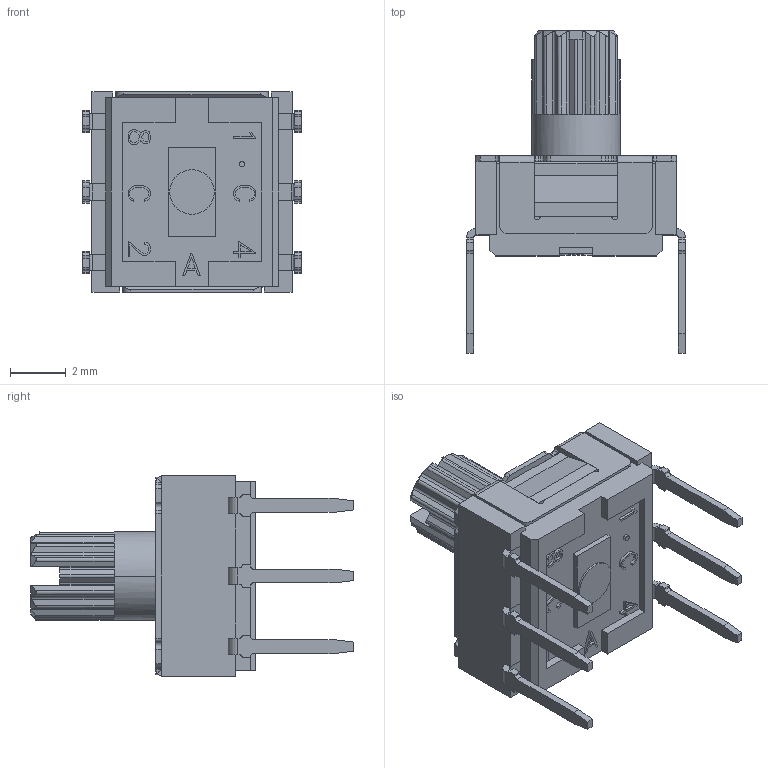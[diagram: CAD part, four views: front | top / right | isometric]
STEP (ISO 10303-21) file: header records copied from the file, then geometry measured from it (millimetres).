
FILE_DESCRIPTION (( 'STEP AP203' ), '1' );
FILE_NAME ('RSH-3FRH.STEP', '2019-07-05T06:22:47', ( '' ), ( '' ), 'SwSTEP 2.0', 'SolidWorks 2017', '' );
FILE_SCHEMA (( 'CONFIG_CONTROL_DESIGN' ));
Length unit declared in the file: millimetre
Products named in the file (6): ROTOR16_No.3; RSH-C01_16P; RSH-B01_H(6 PIN); RSH-B01; RSH-3FRH; RSH-T01_H(6 PIN)
Assembly tree (5 placements, depth 3):
  RSH-3FRH
    RSH-B01_H(6 PIN)
      RSH-B01
      RSH-T01_H(6 PIN)
    RSH-C01_16P
    ROTOR16_No.3
Bounding box: 7.87 x 11.6 x 7.2 mm (x, y, z)
Volume: 173.2 mm3; surface area: 721 mm2
Topology: 4 solids, 4 shells, 1425 faces, 3970 edges, 2585 vertices
Faces by surface type: plane 925, cylinder 378, bspline 117, cone 5
Entity records: 52849 total; most frequent: CARTESIAN_POINT 16256, ORIENTED_EDGE 7940, DIRECTION 6922, EDGE_CURVE 3970, LINE 2686, VECTOR 2686, VERTEX_POINT 2585, AXIS2_PLACEMENT_3D 2118
